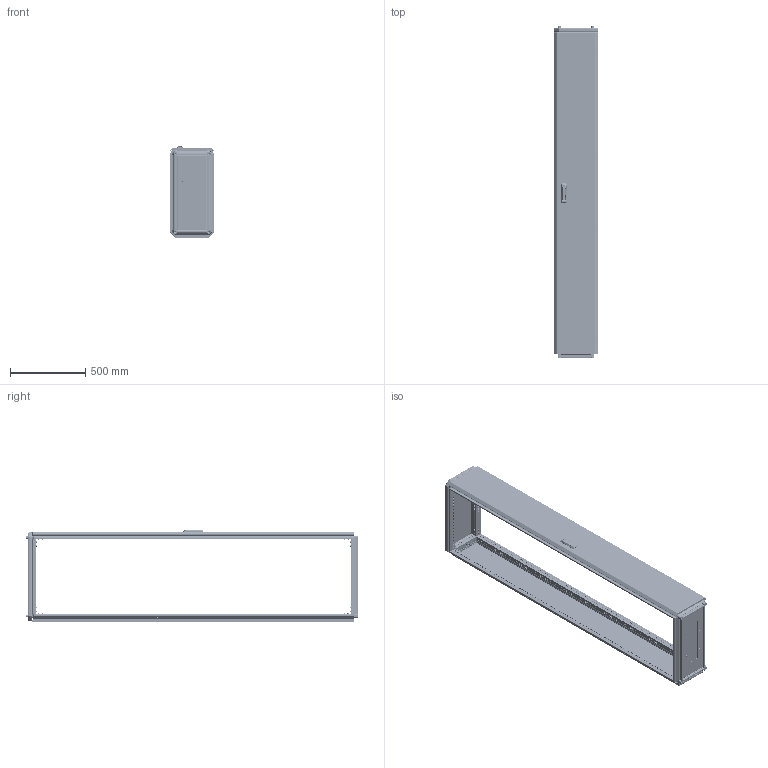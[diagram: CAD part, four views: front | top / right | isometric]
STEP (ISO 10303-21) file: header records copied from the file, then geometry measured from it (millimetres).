
FILE_DESCRIPTION (( 'STEP AP203' ), '1' );
FILE_NAME ('MA1.000.030622.10.00 AleSta2236 Øêàô AleSta 300õ600õ2200.STEP', '2024-08-23T08:37:42', ( '' ), ( '' ), 'SwSTEP 2.0', 'SolidWorks 2021', '' );
FILE_SCHEMA (( 'CONFIG_CONTROL_DESIGN' ));
Length unit declared in the file: millimetre
Products named in the file (50): MA1.101.060620.20.00 Íèæíÿÿ ïàíåëü 600õ600_300å600; MA1.200.060620.31.04 ðèãåëü çàìêà äâåðè; Âèíò ðåçüáîâûäàâëèâàþùèé Ì6õ12 DIN 7500E_Œ6å10; MA1.101.060620.00.02 Ïðîôèëü ïîïåðå÷íûé ñâàðíîé_03 L=198 (˜=300); Ãàéêà ñàìîêîíòðÿùàÿñÿ ñ íåéëîíîâîé âñòàâêîé Ì6 DIN 985, êëàññ ïðî÷íîñòè 8, îöèíêîâàííàÿ ñòàëü_Œ5; MA1.200.060620.31.01 Ïîëîòíî äâåðè ñïëîøíîé 2000õ600_2200å300; ﾘ琺矜 01.019 ﾃﾎﾑﾒ11371-78_12; Âèíò ñàìîíàðåçàþùèé ñ ïîòàéíîé ãîëîâêîé Ì5x14 DIN 7500 M TORX, êëàññ ïðî÷íîñòè 8.8, îöèíêîâàííàÿ ñòàëü_Œ5å14; Âèíò ñàìîíàðåçàþùèé ñ ïîòàéíîé ãîëîâêîé Ì5x14 DIN 7500 M TORX, êëàññ ïðî÷íîñòè 8.8, îöèíêîâàííàÿ ñòàëü_Œ5å12; Øïèëüêà Ì6õ12_˜¯¨«ìª  Œ6å20; 7380-2 ISO Âèíòû ñ ïîëóêðóãëîé ãîëîâêîé ñ ôëàíöåì ñ âíóòðåííèì øåñòèãðàííèêîì Ì4õ10; Ãàéêà ñàìîêîíòðÿùàÿñÿ ñ íåéëîíîâîé âñòàâêîé Ì6 DIN 985, êëàññ ïðî÷íîñòè 8, îöèíêîâàííàÿ ñòàëü_Œ6; Îñü ïåòëè 4õ52_‚¨­â A.M4x0,5x40 ƒŽ‘’ 11644-75; Óïëîòíèòåëü ïàíåëè íèæíåé_   ‚=2200; MA1.101.060620.00.00 AleSta-RB66 Êîìïëåêò êðûøà è îñíîâàíèå_ 300x600; Øïèëüêà Ì6õ12_˜¯¨«ìª  Œ6å16; Óïëîòíèòåëü ïàíåëè íèæíåé_300å600; MA1.101.060620.20.01 Ïîëîòíî íèæíåé ïàíåëè 600õ600_300å600; MA1.100.060620.00.01 Ñîåäèíèòåëü óãëîâîé_00; MA1.101.060620.10.01 Ïîëîòíî êðûøè 600õ600_300x600; MA1.200.060620.30.00 AleSta-D20M600 Äâåðü ñïëîøíàÿ äëÿ øêàôîâ ALESTA ÂõØ 2000õ600_2200å300; êðåïëåíèå_êðóãëîé_òÿãè_RG1020-1.stp; ﾇﾀﾊﾋﾅﾏﾊﾀ ﾃﾀﾅﾗﾍﾀﾟ ﾘﾅﾑﾒﾈﾃﾐﾀﾍﾍﾀﾟ ﾑ ﾓﾌﾅﾍﾜﾘﾅﾍﾍﾛﾌ ﾁﾎﾐﾒﾎﾌ M4 X 11 (0.5-2.5 ﾌﾌ) HEX U-S ﾖﾈﾍﾊ; MA1.200.060620.11.00 Ïàíåëü çàäíÿÿ, äëÿ øêàôîâ AleSta, 2000x600_2200å300; MA1.200.060620.10.00 AleSta-PR206  Ïàíåëü çàäíÿÿ, äëÿ øêàôîâ ALESTA, 2000 x 600_2200å300; Øïèëüêà Ì6õ12_˜¯¨«ìª  Œ6å12; Íàâåñêà íà êîðïóñ ïîä êëåïêó; MS463-2-3(1); MA1.101.060620.00.02 Ïðîôèëü ïîïåðå÷íûé ñâàðíîé_01 L=498 (˜=600); Âèíò_ðåçüáîâûäàâëèâàþùèé_Ì5õ12_DIN 7500E_00; Áîëò øåñòèãðàííûé Ì5õ12 DIN 933, êëàññ ïðî÷íîñòè 8.8, îöèíêîâàííàÿ ñòàëü; MA1.200.060620.31.02 Ðåéêà íà äâåðü âåðòèêàëüíàÿ Â = 2000_‚ = 2200; ﾘ琺矜 65ﾃ 019 ﾃﾎﾑﾒ 6402-70_12; MA1.200.060620.31.00 Äâåðü ñïëîøíàÿ äëÿ øêàôîâ ALESTA ÂõØ 2000õ600_2200å300; MA1.000.030622.10.00 AleSta2236 Øêàô AleSta 300õ600õ2200; MA1.101.060620.20.02 Çàêðûòèå íèæíåé ïàíåëè 600õ600_300x600; Øàéáà ñòîïîðíàÿ ñ íàðóæíûìè çóáöàìè SCHNORR, òèï VS öèíêîâûå õëîïüÿ Ì6 O6,4 ART 88121_Œ6; Ïåòëÿ íà äâåðü ï-îáðàçíàÿ; MA1.200.060620.31.05 Óãëîâîé óïîð äâåðíîé òÿãè; MA1.102.060620.00.01 Ïðîôèëü âåðòèêàëüíûé ñâàðíîé_05 L=2098 (‚=2200)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
Assembly tree (329 placements, depth 4):
  MA1.000.030622.10.00 AleSta2236 Øêàô AleSta 300õ600õ2200
    MA1.101.060620.00.00 AleSta-RB66 Êîìïëåêò êðûøà è îñíîâàíèå_ 300x600
      MA1.101.060620.00.02 Ïðîôèëü ïîïåðå÷íûé ñâàðíîé_01 L=498 (˜=600)  x4
      MA1.101.060620.00.02 Ïðîôèëü ïîïåðå÷íûé ñâàðíîé_03 L=198 (˜=300)  x4
      MA1.101.060620.10.00 Êðûøà 600x600_300å600
        MA1.101.060620.10.01 Ïîëîòíî êðûøè 600õ600_300x600
        Øïèëüêà Ì6õ12_˜¯¨«ìª  Œ6å12  x4
        Óïëîòíèòåëü ïàíåëè íèæíåé_300å600
      MA1.101.060620.20.00 Íèæíÿÿ ïàíåëü 600õ600_300å600
        MA1.101.060620.20.01 Ïîëîòíî íèæíåé ïàíåëè 600õ600_300å600
        ﾇﾀﾊﾋﾅﾏﾊﾀ ﾃﾀﾅﾗﾍﾀﾟ ﾘﾅﾑﾒﾈﾃﾐﾀﾍﾍﾀﾟ ﾑ ﾓﾌﾅﾍﾜﾘﾅﾍﾍﾛﾌ ﾁﾎﾐﾒﾎﾌ M4 X 11 (0.5-2.5 ﾌﾌ) HEX U-S ﾖﾈﾍﾊ  x4
        MA1.101.060620.20.02 Çàêðûòèå íèæíåé ïàíåëè 600õ600_300x600  x2
        7380-2 ISO Âèíòû ñ ïîëóêðóãëîé ãîëîâêîé ñ ôëàíöåì ñ âíóòðåííèì øåñòèãðàííèêîì Ì4õ10  x4
      Âèíò_ðåçüáîâûäàâëèâàþùèé_Ì5õ12_DIN 7500E_Œ5å12  x8
      MA1.100.060620.00.01 Ñîåäèíèòåëü óãëîâîé_00  x8
      Âèíò ñ âí. øåñòèãðàííèêîì M12 DIN912_•30  x4
      Âèíò ðåçüáîâûäàâëèâàþùèé Ì6õ12 DIN 7500E_Œ6å10  x96
      ﾘ琺矜 01.019 ﾃﾎﾑﾒ11371-78_12  x4
      ﾘ琺矜 65ﾃ 019 ﾃﾎﾑﾒ 6402-70_12  x4
      Øàéáà ñòîïîðíàÿ ñ íàðóæíûìè çóáöàìè SCHNORR, òèï VS öèíêîâûå õëîïüÿ Ì6 O6,4 ART 88121_Œ6  x80
    MA1.102.060620.00.00 AleSta-VG2000 Ñòîéêè âåðòèêàëüíûå, Â=2000ìì  (4øò)_ 300å600
      MA1.102.060620.00.01 Ïðîôèëü âåðòèêàëüíûé ñâàðíîé_05 L=2098 (‚=2200)  x4
    MA1.200.060620.10.00 AleSta-PR206  Ïàíåëü çàäíÿÿ, äëÿ øêàôîâ ALESTA, 2000 x 600_2200å300
      MA1.200.060620.11.00 Ïàíåëü çàäíÿÿ, äëÿ øêàôîâ AleSta, 2000x600_2200å300
        MA1.200.060620.11.01 Ïîëîòíî çàäíåé ïàíåëè 2000õ600_2200å300
        Óïëîòíèòåëü ïàíåëè íèæíåé_   ‚=2200
        Øïèëüêà Ì6õ12_˜¯¨«ìª  Œ6å12  x4
      Âèíò ñàìîíàðåçàþùèé ñ ïîòàéíîé ãîëîâêîé Ì5x14 DIN 7500 M TORX, êëàññ ïðî÷íîñòè 8.8, îöèíêîâàííàÿ ñòàëü_Œ5å14  x8
    MA1.200.060620.30.00 AleSta-D20M600 Äâåðü ñïëîøíàÿ äëÿ øêàôîâ ALESTA ÂõØ 2000õ600_2200å300
      MA1.200.060620.31.00 Äâåðü ñïëîøíàÿ äëÿ øêàôîâ ALESTA ÂõØ 2000õ600_2200å300
        MA1.200.060620.31.01 Ïîëîòíî äâåðè ñïëîøíîé 2000õ600_2200å300
        Óïëîòíèòåëü ïàíåëè íèæíåé_   ‚=2200
        Øïèëüêà Ì6õ12_˜¯¨«ìª  Œ6å20  x12
        Øïèëüêà Ì6õ12_˜¯¨«ìª  Œ6å16  x4
        Ïåòëÿ íà äâåðü ï-îáðàçíàÿ  x4
      MA1.200.060620.31.03 Ðåéêà íà äâåðü ãîðèçîíòàëüíàÿ Ø = 600_˜=300  x2
      諘蜱齁罻 022 瀁錒瀔隮  x4
      MA1.200.060620.31.02 Ðåéêà íà äâåðü âåðòèêàëüíàÿ Â = 2000_‚ = 2200  x2
      äåðæàòåëü_êðóãëîé_òÿãèRG002-RG1010-2-i-RG1010-3-.stp  x2
      òÿãà_lg001-2.STEP_‚=2200  x2
      êðåïëåíèå_êðóãëîé_òÿãè_RG1020-1.stp  x2
      MS463-2-3(1)
      Ãàéêà ñàìîêîíòðÿùàÿñÿ ñ íåéëîíîâîé âñòàâêîé Ì6 DIN 985, êëàññ ïðî÷íîñòè 8, îöèíêîâàííàÿ ñòàëü_Œ6  x12
      Ãàéêà ñàìîêîíòðÿùàÿñÿ ñ íåéëîíîâîé âñòàâêîé Ì6 DIN 985, êëàññ ïðî÷íîñòè 8, îöèíêîâàííàÿ ñòàëü_Œ5  x2
      Áîëò øåñòèãðàííûé Ì5õ12 DIN 933, êëàññ ïðî÷íîñòè 8.8, îöèíêîâàííàÿ ñòàëü  x2
      MA1.200.060620.31.04 ðèãåëü çàìêà äâåðè
      MA1.200.060620.31.05 Óãëîâîé óïîð äâåðíîé òÿãè  x2
      Âèíò_ðåçüáîâûäàâëèâàþùèé_Ì5õ12_DIN 7500E_00  x2
      Íàâåñêà íà êîðïóñ ïîä êëåïêó  x4
      Îñü ïåòëè 4õ52_‚¨­â A.M4x0,5x40 ƒŽ‘’ 11644-75  x4
      Âèíò ñàìîíàðåçàþùèé ñ ïîòàéíîé ãîëîâêîé Ì5x14 DIN 7500 M TORX, êëàññ ïðî÷íîñòè 8.8, îöèíêîâàííàÿ ñòàëü_Œ5å12  x8
  Ïðîáêà ïëàñòèêîâàÿ óíèâåðñàëüíàÿ ïîä îòâåðñòèå 4,5 ìì, ñåðèÿ ST, öâåò áåñöâåòíûé – ST4,5
Bounding box: 292 x 2210.9 x 616.8 mm (x, y, z)
Volume: 7254457.5 mm3; surface area: 8582295.1 mm2
Topology: 356 solids, 370 shells, 23359 faces, 60286 edges, 37776 vertices
Faces by surface type: plane 14045, cylinder 6677, bspline 873, cone 837, torus 829, sphere 98
Entity records: 247344 total; most frequent: CARTESIAN_POINT 79645, ORIENTED_EDGE 32114, DIRECTION 31560, EDGE_CURVE 16074, AXIS2_PLACEMENT_3D 10820, VERTEX_POINT 10013, LINE 9920, VECTOR 9920
